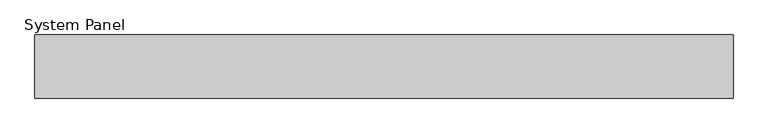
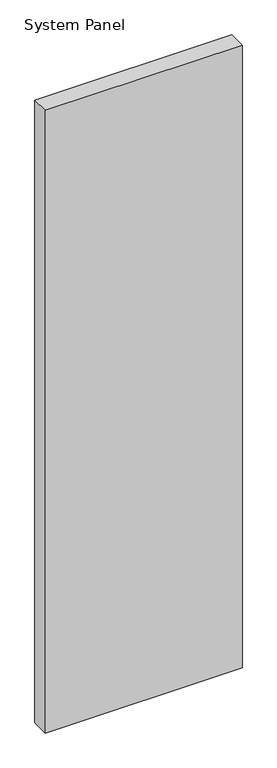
"""IFC4 building model written with IfcOpenShell, lengths in millimetres: plate geometry, System Panel : MetecnoPanel_100mm_Plain_Surfmist."""

from ifc_helpers import new_model, si_unit, origin, origin_with_axes, place, context, project, spatial, polyline, outline, extrude, source, transform, mapped, element, save


def system_panel_4289257d(model_context):
    return source(origin(), model_context, "Body", "SweptSolid", [
        extrude(outline(polyline([(550.0, -100.0), (-550.0, -100.0), (-550.0, 0.0), (550.0, 0.0), (550.0, -100.0)])), origin_with_axes(), (0.0, 0.0, 1.0), 3679.9704237),
    ])


if __name__ == "__main__":
    model = new_model("IFC4")
    model_context = context("Model", 3, world=origin())
    ifc_project = project(units=[si_unit("LENGTHUNIT", "METRE", prefix="MILLI")], contexts=[model_context])
    site = spatial("IfcSite", under=ifc_project)
    building = spatial("IfcBuilding", under=site)
    placement = place(None, origin())
    system_panel_shape = system_panel_4289257d(model_context)
    element("IfcPlate", 1, ObjectType="System Panel : MetecnoPanel_100mm_Plain_Surfmist", at=placement, inside=building, context=model_context, shape_type="MappedRepresentation", body=[
        mapped(system_panel_shape, transform((0.0, 0.0, 0.0), x_axis=(1.0, 0.0, 0.0), y_axis=(0.0, 1.0, 0.0), z_axis=(0.0, 0.0, 1.0))),
    ])
    save(model, "model.ifc")
